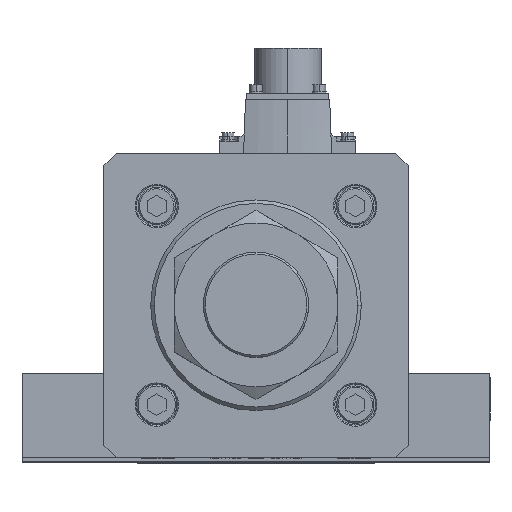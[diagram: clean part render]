
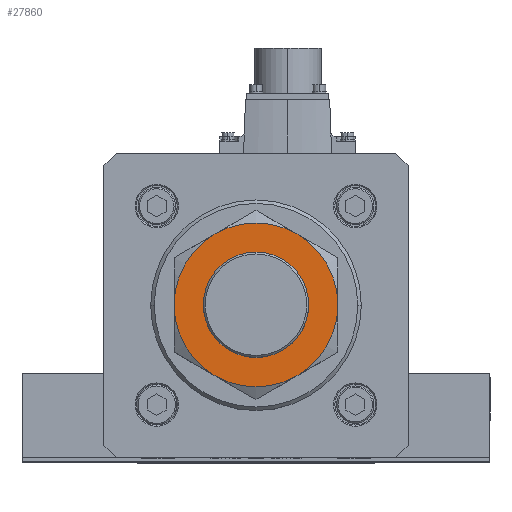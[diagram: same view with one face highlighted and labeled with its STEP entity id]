
A CAD part, top view. The second image highlights one B-rep face of the part: STEP entity #27860.
In plain terms, the highlighted planar face has unit normal (0, 0, 1).
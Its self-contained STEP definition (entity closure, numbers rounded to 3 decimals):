
#559 = VERTEX_POINT ( 'NONE', #36993 ) ;
#661 = DIRECTION ( 'NONE',  ( 0., 0., 1. ) ) ;
#1063 = DIRECTION ( 'NONE',  ( 0., 0., -1. ) ) ;
#2944 = CARTESIAN_POINT ( 'NONE',  ( 0., 0., 27. ) ) ;
#3444 = CARTESIAN_POINT ( 'NONE',  ( -17.5, 30.311, 27. ) ) ;
#4146 = ORIENTED_EDGE ( 'NONE', *, *, #19778, .F. ) ;
#4752 = VERTEX_POINT ( 'NONE', #3444 ) ;
#4757 = DIRECTION ( 'NONE',  ( -1., 0., 0. ) ) ;
#5193 = ORIENTED_EDGE ( 'NONE', *, *, #6726, .F. ) ;
#5233 = CARTESIAN_POINT ( 'NONE',  ( 17.5, 30.311, 27. ) ) ;
#5309 = DIRECTION ( 'NONE',  ( -1., 0., 0. ) ) ;
#5630 = CIRCLE ( 'NONE', #26738, 35. ) ;
#5697 = CARTESIAN_POINT ( 'NONE',  ( 0., 0., 27. ) ) ;
#6030 = DIRECTION ( 'NONE',  ( 1., 0., 0. ) ) ;
#6726 = EDGE_CURVE ( 'NONE', #35063, #27575, #12353, .T. ) ;
#7674 = ORIENTED_EDGE ( 'NONE', *, *, #12252, .F. ) ;
#7770 = CARTESIAN_POINT ( 'NONE',  ( 17.5, -30.311, 27. ) ) ;
#8119 = CARTESIAN_POINT ( 'NONE',  ( 0., 0., 27. ) ) ;
#8600 = AXIS2_PLACEMENT_3D ( 'NONE', #15973, #1063, #24772 ) ;
#8951 = DIRECTION ( 'NONE',  ( -1., 0., 0. ) ) ;
#9043 = EDGE_CURVE ( 'NONE', #17342, #35063, #5630, .T. ) ;
#9855 = FACE_BOUND ( 'NONE', #19448, .T. ) ;
#10461 = ORIENTED_EDGE ( 'NONE', *, *, #9043, .F. ) ;
#10482 = CARTESIAN_POINT ( 'NONE',  ( 22.5, 0., 27. ) ) ;
#11115 = DIRECTION ( 'NONE',  ( 0., 0., 1. ) ) ;
#12252 = EDGE_CURVE ( 'NONE', #18157, #17342, #13809, .T. ) ;
#12353 = CIRCLE ( 'NONE', #8600, 35. ) ;
#12442 = AXIS2_PLACEMENT_3D ( 'NONE', #36091, #30029, #18412 ) ;
#12476 = AXIS2_PLACEMENT_3D ( 'NONE', #2944, #20818, #6030 ) ;
#12509 = CIRCLE ( 'NONE', #32810, 35. ) ;
#12691 = ORIENTED_EDGE ( 'NONE', *, *, #26710, .F. ) ;
#12878 = AXIS2_PLACEMENT_3D ( 'NONE', #8119, #11115, #34755 ) ;
#12929 = AXIS2_PLACEMENT_3D ( 'NONE', #34365, #13596, #4757 ) ;
#13596 = DIRECTION ( 'NONE',  ( 0., 0., -1. ) ) ;
#13809 = CIRCLE ( 'NONE', #12442, 35. ) ;
#14653 = AXIS2_PLACEMENT_3D ( 'NONE', #25937, #20225, #5309 ) ;
#15110 = CIRCLE ( 'NONE', #14653, 35. ) ;
#15973 = CARTESIAN_POINT ( 'NONE',  ( 0., 0., 27. ) ) ;
#17342 = VERTEX_POINT ( 'NONE', #27968 ) ;
#17902 = DIRECTION ( 'NONE',  ( 1., 0., 0. ) ) ;
#18157 = VERTEX_POINT ( 'NONE', #5233 ) ;
#18412 = DIRECTION ( 'NONE',  ( -1., 0., 0. ) ) ;
#18764 = ORIENTED_EDGE ( 'NONE', *, *, #33014, .F. ) ;
#19448 = EDGE_LOOP ( 'NONE', ( #33579, #34464 ) ) ;
#19778 = EDGE_CURVE ( 'NONE', #4752, #18157, #12509, .T. ) ;
#19878 = DIRECTION ( 'NONE',  ( -1., 0., 0. ) ) ;
#20225 = DIRECTION ( 'NONE',  ( 0., 0., -1. ) ) ;
#20818 = DIRECTION ( 'NONE',  ( 0., 0., 1. ) ) ;
#23224 = CARTESIAN_POINT ( 'NONE',  ( 0., 0., 27. ) ) ;
#23531 = VERTEX_POINT ( 'NONE', #33891 ) ;
#24772 = DIRECTION ( 'NONE',  ( -1., 0., 0. ) ) ;
#25937 = CARTESIAN_POINT ( 'NONE',  ( 0., 0., 27. ) ) ;
#26710 = EDGE_CURVE ( 'NONE', #27575, #559, #30066, .T. ) ;
#26738 = AXIS2_PLACEMENT_3D ( 'NONE', #23224, #29154, #19878 ) ;
#27575 = VERTEX_POINT ( 'NONE', #31295 ) ;
#27860 = ADVANCED_FACE ( 'NONE', ( #30703, #9855 ), #38214, .T. ) ;
#27968 = CARTESIAN_POINT ( 'NONE',  ( 35., 0., 27. ) ) ;
#28141 = VERTEX_POINT ( 'NONE', #10482 ) ;
#29154 = DIRECTION ( 'NONE',  ( 0., 0., -1. ) ) ;
#30029 = DIRECTION ( 'NONE',  ( 0., 0., -1. ) ) ;
#30066 = CIRCLE ( 'NONE', #12929, 35. ) ;
#30355 = CIRCLE ( 'NONE', #36085, 22.5 ) ;
#30703 = FACE_OUTER_BOUND ( 'NONE', #34268, .T. ) ;
#31295 = CARTESIAN_POINT ( 'NONE',  ( -17.5, -30.311, 27. ) ) ;
#32212 = EDGE_CURVE ( 'NONE', #23531, #28141, #34568, .T. ) ;
#32353 = DIRECTION ( 'NONE',  ( 0., 0., -1. ) ) ;
#32810 = AXIS2_PLACEMENT_3D ( 'NONE', #5697, #32353, #8951 ) ;
#33014 = EDGE_CURVE ( 'NONE', #559, #4752, #15110, .T. ) ;
#33122 = CARTESIAN_POINT ( 'NONE',  ( 0., 0., 27. ) ) ;
#33579 = ORIENTED_EDGE ( 'NONE', *, *, #32212, .F. ) ;
#33891 = CARTESIAN_POINT ( 'NONE',  ( -22.5, 0., 27. ) ) ;
#34268 = EDGE_LOOP ( 'NONE', ( #10461, #7674, #4146, #18764, #12691, #5193 ) ) ;
#34365 = CARTESIAN_POINT ( 'NONE',  ( 0., 0., 27. ) ) ;
#34464 = ORIENTED_EDGE ( 'NONE', *, *, #38263, .F. ) ;
#34568 = CIRCLE ( 'NONE', #12878, 22.5 ) ;
#34755 = DIRECTION ( 'NONE',  ( 1., 0., 0. ) ) ;
#35063 = VERTEX_POINT ( 'NONE', #7770 ) ;
#36085 = AXIS2_PLACEMENT_3D ( 'NONE', #33122, #661, #17902 ) ;
#36091 = CARTESIAN_POINT ( 'NONE',  ( 0., 0., 27. ) ) ;
#36993 = CARTESIAN_POINT ( 'NONE',  ( -35., 0., 27. ) ) ;
#38214 = PLANE ( 'NONE',  #12476 ) ;
#38263 = EDGE_CURVE ( 'NONE', #28141, #23531, #30355, .T. ) ;
